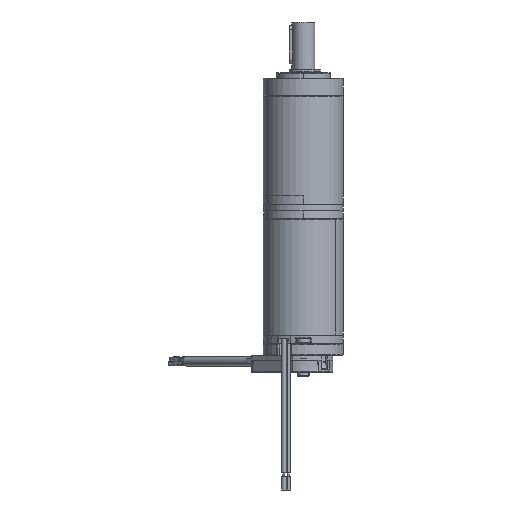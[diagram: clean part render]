
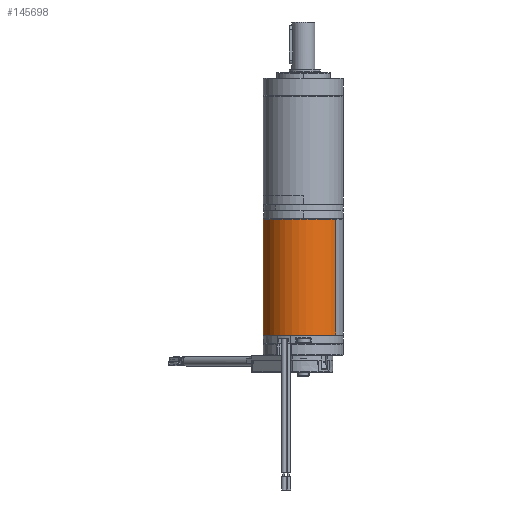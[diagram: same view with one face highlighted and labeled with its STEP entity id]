
A CAD part, left-side view. The second image highlights one B-rep face of the part: STEP entity #145698.
In plain terms, the highlighted cylindrical face has radius 21 mm (diameter 42 mm), a partial arc.
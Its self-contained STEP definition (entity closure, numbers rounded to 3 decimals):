
#2834 = EDGE_CURVE ( 'NONE', #13041, #170171, #62609, .T. ) ;
#13041 = VERTEX_POINT ( 'NONE', #148583 ) ;
#14236 = DIRECTION ( 'NONE',  ( 0.596, 0.803, 0. ) ) ;
#15870 = DIRECTION ( 'NONE',  ( -0.596, -0.803, 0. ) ) ;
#19487 = CARTESIAN_POINT ( 'NONE',  ( 17.639, 8.269, 22.935 ) ) ;
#20614 = CARTESIAN_POINT ( 'NONE',  ( 17.639, 8.269, 61.785 ) ) ;
#23376 = EDGE_CURVE ( 'NONE', #13041, #30146, #34432, .T. ) ;
#25566 = AXIS2_PLACEMENT_3D ( 'NONE', #152920, #170065, #15870 ) ;
#30146 = VERTEX_POINT ( 'NONE', #76064 ) ;
#30795 = AXIS2_PLACEMENT_3D ( 'NONE', #167535, #138518, #14236 ) ;
#34432 = LINE ( 'NONE', #77896, #93744 ) ;
#37135 = ORIENTED_EDGE ( 'NONE', *, *, #2834, .T. ) ;
#51560 = CARTESIAN_POINT ( 'NONE',  ( 17.639, 8.269, 1.085 ) ) ;
#62609 = CIRCLE ( 'NONE', #30795, 21. ) ;
#73902 = DIRECTION ( 'NONE',  ( 0., 0., -1. ) ) ;
#76064 = CARTESIAN_POINT ( 'NONE',  ( -7.378, -25.468, 1.085 ) ) ;
#76138 = DIRECTION ( 'NONE',  ( 0., 0., -1. ) ) ;
#77896 = CARTESIAN_POINT ( 'NONE',  ( -7.378, -25.468, 22.935 ) ) ;
#80684 = EDGE_CURVE ( 'NONE', #170171, #146957, #167452, .T. ) ;
#90113 = EDGE_CURVE ( 'NONE', #146957, #30146, #178684, .T. ) ;
#90349 = DIRECTION ( 'NONE',  ( 0., 0., 1. ) ) ;
#93744 = VECTOR ( 'NONE', #76138, 1000. ) ;
#104854 = DIRECTION ( 'NONE',  ( 0.596, 0.803, 0. ) ) ;
#113748 = CYLINDRICAL_SURFACE ( 'NONE', #25566, 21. ) ;
#120749 = AXIS2_PLACEMENT_3D ( 'NONE', #134821, #90349, #104854 ) ;
#129192 = FACE_OUTER_BOUND ( 'NONE', #148585, .T. ) ;
#134821 = CARTESIAN_POINT ( 'NONE',  ( 5.131, -8.599, 1.085 ) ) ;
#138518 = DIRECTION ( 'NONE',  ( 0., 0., -1. ) ) ;
#145698 = ADVANCED_FACE ( 'NONE', ( #129192 ), #113748, .T. ) ;
#146957 = VERTEX_POINT ( 'NONE', #51560 ) ;
#148583 = CARTESIAN_POINT ( 'NONE',  ( -7.378, -25.468, 61.785 ) ) ;
#148585 = EDGE_LOOP ( 'NONE', ( #37135, #151105, #176321, #170094 ) ) ;
#151105 = ORIENTED_EDGE ( 'NONE', *, *, #80684, .T. ) ;
#152920 = CARTESIAN_POINT ( 'NONE',  ( 5.131, -8.599, 22.935 ) ) ;
#167452 = LINE ( 'NONE', #19487, #172472 ) ;
#167535 = CARTESIAN_POINT ( 'NONE',  ( 5.131, -8.599, 61.785 ) ) ;
#170065 = DIRECTION ( 'NONE',  ( 0., 0., -1. ) ) ;
#170094 = ORIENTED_EDGE ( 'NONE', *, *, #23376, .F. ) ;
#170171 = VERTEX_POINT ( 'NONE', #20614 ) ;
#172472 = VECTOR ( 'NONE', #73902, 1000. ) ;
#176321 = ORIENTED_EDGE ( 'NONE', *, *, #90113, .T. ) ;
#178684 = CIRCLE ( 'NONE', #120749, 21. ) ;
